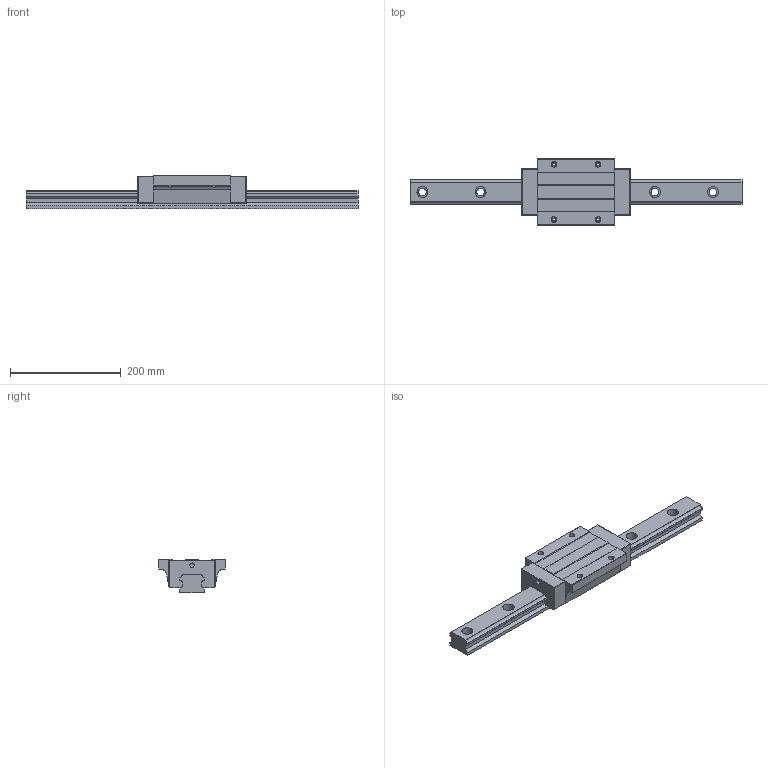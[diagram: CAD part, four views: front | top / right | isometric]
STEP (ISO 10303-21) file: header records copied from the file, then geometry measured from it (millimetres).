
FILE_DESCRIPTION (( 'STEP AP203' ), '1' );
FILE_NAME ('TRH45FE-WZ-§ï.STEP', '2023-08-30T01:08:23', ( '' ), ( '' ), 'SwSTEP 2.0', 'SolidWorks 2022', '' );
FILE_SCHEMA (( 'CONFIG_CONTROL_DESIGN' ));
Length unit declared in the file: millimetre
Products named in the file (1): TRH45FE-WZ-改
Bounding box: 600 x 120 x 60 mm (x, y, z)
Volume: 1446912.5 mm3; surface area: 179372.8 mm2
Topology: 1 solids, 1 shells, 187 faces, 510 edges, 330 vertices
Faces by surface type: cylinder 92, plane 91, sphere 4
Entity records: 6395 total; most frequent: CARTESIAN_POINT 1428, DIRECTION 1044, ORIENTED_EDGE 1012, EDGE_CURVE 506, AXIS2_PLACEMENT_3D 362, VERTEX_POINT 330, LINE 320, VECTOR 320
